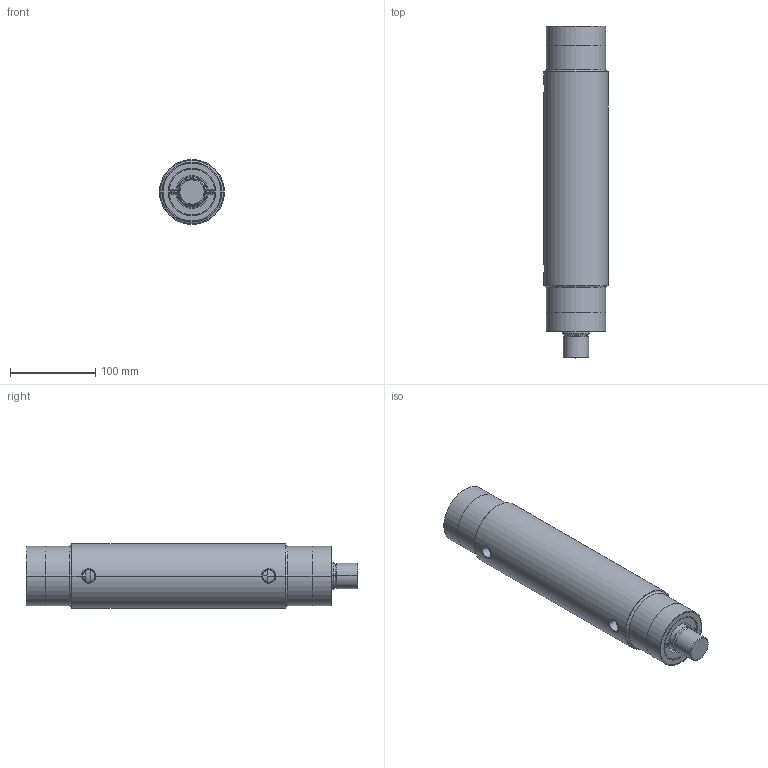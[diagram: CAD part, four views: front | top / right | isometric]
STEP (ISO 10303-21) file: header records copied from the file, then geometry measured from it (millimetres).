
FILE_DESCRIPTION((''),'2;1');
FILE_NAME('BRD-166_ASM','2011-09-23T',('chad.steele'),(''),'PRO/ENGINEER BY PARAMETRIC TECHNOLOGY CORPORATION, 2010040','PRO/ENGINEER BY PARAMETRIC TECHNOLOGY CORPORATION, 2010040','');
FILE_SCHEMA(('CONFIG_CONTROL_DESIGN'));
Length unit declared in the file: inch
Products named in the file (9): BSS5935D; CJ280570; BSS5943D; CJ281044; BSS5947D; CW188107; CL768107; BSS5924D; BRD-166_ASM
Assembly tree (8 placements, depth 2):
  BRD-166_ASM
    BSS5935D
    CJ280570
    BSS5943D
    CJ281044
    BSS5947D
    CW188107
    CL768107
    BSS5924D
Bounding box: 76.2 x 389.96 x 76.2 mm (x, y, z)
Volume: 1289157.6 mm3; surface area: 279222.5 mm2
Topology: 8 solids, 19 shells, 202 faces, 440 edges, 265 vertices
Faces by surface type: cylinder 82, cone 58, plane 44, torus 18
Entity records: 5935 total; most frequent: DIRECTION 1134, CARTESIAN_POINT 1090, ORIENTED_EDGE 824, AXIS2_PLACEMENT_3D 483, EDGE_CURVE 434, VERTEX_POINT 265, CIRCLE 254, EDGE_LOOP 233
